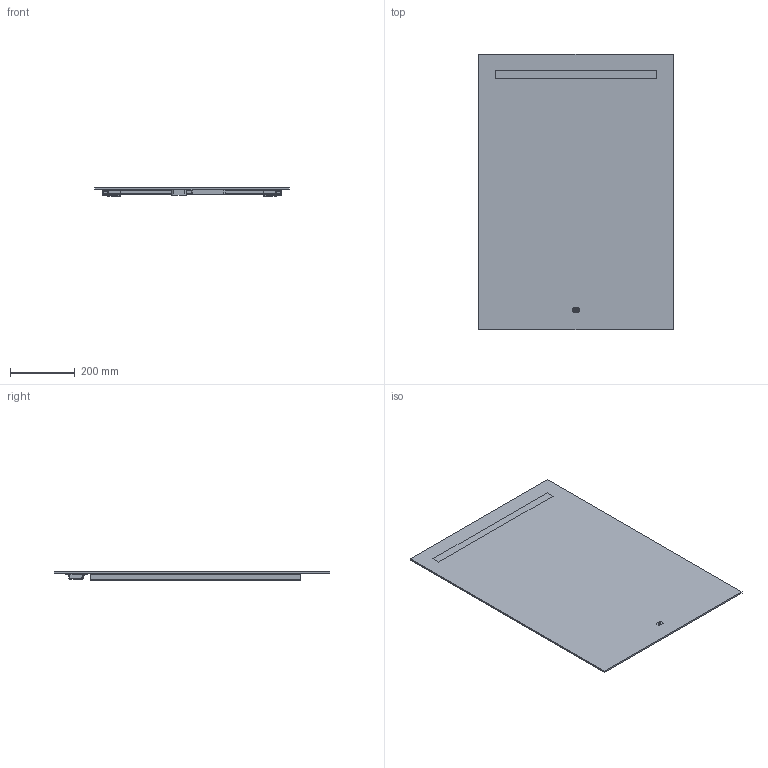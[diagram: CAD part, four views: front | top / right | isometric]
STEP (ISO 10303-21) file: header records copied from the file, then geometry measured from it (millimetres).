
FILE_DESCRIPTION (( 'STEP AP203' ), '1' );
FILE_NAME ('2000656 Kristalspiegel Mono 600x850 horizontal.STEP', '2021-01-22T09:12:13', ( '' ), ( '' ), 'SwSTEP 2.0', 'SolidWorks 2018', '' );
FILE_SCHEMA (( 'CONFIG_CONTROL_DESIGN' ));
Length unit declared in the file: millimetre
Products named in the file (7): 2000656 Kristalspiegel Mono 600x850 horizontal; Endkappe_mit_Kabelauslass; IP44-Box; Rechteckprofil; Neues_Kunststoffprofil; Spiegel_horizontale_Beleuchtung; Trafo_15W
Assembly tree (8 placements, depth 2):
  2000656 Kristalspiegel Mono 600x850 horizontal
    Spiegel_horizontale_Beleuchtung
    Neues_Kunststoffprofil
    Endkappe_mit_Kabelauslass  x2
    Rechteckprofil  x2
    IP44-Box
    Trafo_15W
Bounding box: 600 x 850 x 25 mm (x, y, z)
Volume: 3177637.5 mm3; surface area: 1490916 mm2
Topology: 8 solids, 8 shells, 312 faces, 824 edges, 520 vertices
Faces by surface type: plane 146, cylinder 120, torus 24, bspline 20, sphere 2
Entity records: 7101 total; most frequent: CARTESIAN_POINT 1438, DIRECTION 1031, ORIENTED_EDGE 1028, EDGE_CURVE 514, AXIS2_PLACEMENT_3D 355, VERTEX_POINT 342, VECTOR 321, LINE 321
